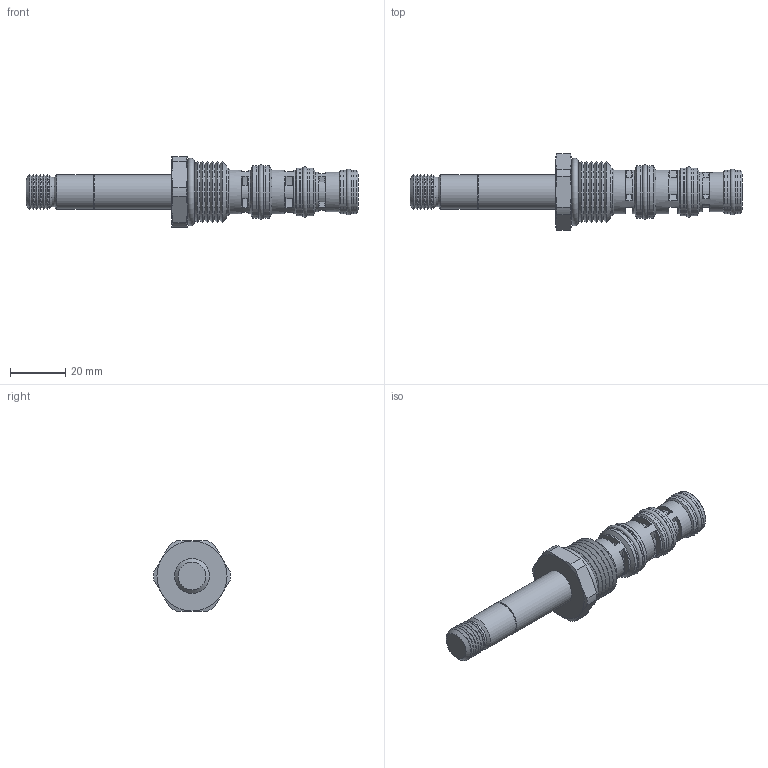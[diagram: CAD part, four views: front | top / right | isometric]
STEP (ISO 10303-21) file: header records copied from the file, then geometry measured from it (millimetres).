
FILE_DESCRIPTION((''),'2;1');
FILE_NAME('Q:\Solid model CD\Solid model full\Solenoid\STEP\DGS4C00-3D Full.stp','2009-06-01T09:28:04',('Dan'),(''),'Autodesk Inventor 2009','Autodesk Inventor 2009','');
FILE_SCHEMA(('AUTOMOTIVE_DESIGN { 1 0 10303 214 1 1 1 1 }'));
Length unit declared in the file: inch
Products named in the file (12): DGS4C00-3D Full; DGS4C00-3D Full1; DGS4C00-3D Full2; DGS4C00-3D Full3; DGS4C00-3D Full4; DGS4C00-3D Full5; DGS4C00-3D Full6; DGS4C00-3D Full7; DGS4C00-3D Full8; DGS4C00-3D Full9; DGS4C00-3D Full10; DGS4C00-3D Full11
Assembly tree (11 placements, depth 2):
  DGS4C00-3D Full
    DGS4C00-3D Full1
    DGS4C00-3D Full2
    DGS4C00-3D Full3
    DGS4C00-3D Full4
    DGS4C00-3D Full5
    DGS4C00-3D Full6
    DGS4C00-3D Full7
    DGS4C00-3D Full8
    DGS4C00-3D Full9
    DGS4C00-3D Full10
    DGS4C00-3D Full11
Bounding box: 120.28 x 27.74 x 25.4 mm (x, y, z)
Volume: 23328.6 mm3; surface area: 11272.1 mm2
Topology: 11 solids, 11 shells, 208 faces, 464 edges, 289 vertices
Faces by surface type: cylinder 64, plane 51, cone 50, torus 40, bspline 3
Full cylindrical faces by diameter (mm): 10.668 x1, 10.998 x1, 11.11 x1, 12.586 x1, 12.675 x1, 12.992 x1, 13.043 x2, 14.275 x1, 14.592 x1, 14.643 x2, 15.773 x4, 15.875 x2, 16.167 x1, 16.218 x2, 17.323 x1, 17.374 x4, 18.91 x2, 18.948 x2, 19.624 x1
Entity records: 6510 total; most frequent: CARTESIAN_POINT 1865, DIRECTION 978, ORIENTED_EDGE 762, AXIS2_PLACEMENT_3D 465, EDGE_CURVE 381, EDGE_LOOP 314, VERTEX_POINT 281, CIRCLE 237
